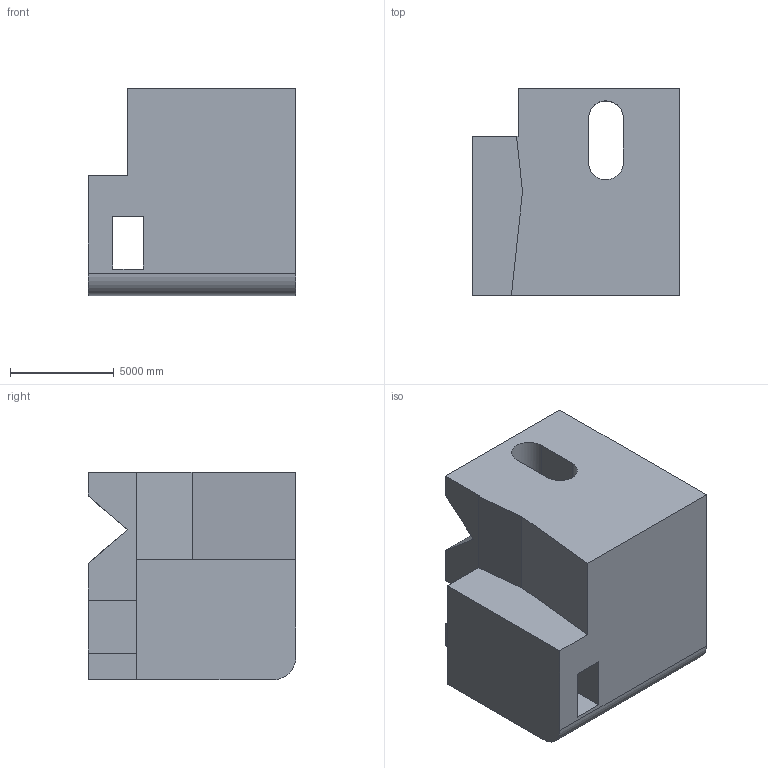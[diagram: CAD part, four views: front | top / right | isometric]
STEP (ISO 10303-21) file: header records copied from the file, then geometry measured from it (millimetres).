
FILE_DESCRIPTION (( 'STEP AP203' ), '1' );
FILE_NAME ('1682.STEP', '2022-08-25T15:27:01', ( 'user' ), ( '' ), 'SwSTEP 2.0', 'SolidWorks 2021', '' );
FILE_SCHEMA (( 'CONFIG_CONTROL_DESIGN' ));
Length unit declared in the file: centimetre
Products named in the file (1): 1682
Bounding box: 10000 x 10000 x 10000 mm (x, y, z)
Volume: 756310186406.2 mm3; surface area: 724807008.7 mm2
Topology: 1 solids, 1 shells, 32 faces, 102 edges, 68 vertices
Faces by surface type: plane 28, cylinder 4
Entity records: 1207 total; most frequent: CARTESIAN_POINT 215, ORIENTED_EDGE 204, DIRECTION 172, EDGE_CURVE 102, LINE 90, VECTOR 90, VERTEX_POINT 68, AXIS2_PLACEMENT_3D 41
